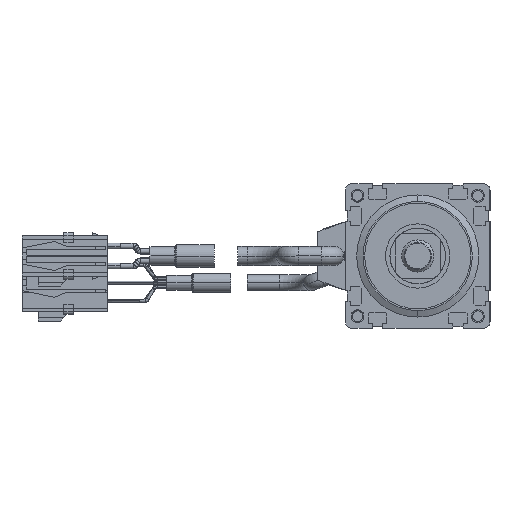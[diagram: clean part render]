
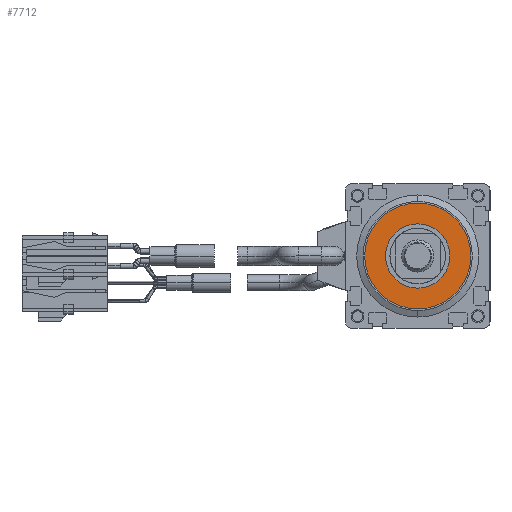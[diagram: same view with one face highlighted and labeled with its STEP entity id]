
A CAD part, left-side view. The second image highlights one B-rep face of the part: STEP entity #7712.
In plain terms, the highlighted planar face has unit normal (-1, 0, 0).
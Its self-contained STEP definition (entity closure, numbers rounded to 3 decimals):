
#2024=CARTESIAN_POINT('',(-276.5,0.,0.));
#2025=DIRECTION('',(1.,0.,0.));
#2026=DIRECTION('',(0.,1.,0.));
#2027=AXIS2_PLACEMENT_3D('',#2024,#2025,#2026);
#2029=CARTESIAN_POINT('',(-276.5,0.,0.));
#2030=DIRECTION('',(1.,0.,0.));
#2031=DIRECTION('',(0.,-1.,0.));
#2032=AXIS2_PLACEMENT_3D('',#2029,#2030,#2031);
#2034=CARTESIAN_POINT('',(-276.5,0.,0.));
#2035=DIRECTION('',(-1.,0.,0.));
#2036=DIRECTION('',(0.,0.,1.));
#2037=AXIS2_PLACEMENT_3D('',#2034,#2035,#2036);
#2039=CARTESIAN_POINT('',(-276.5,0.,0.));
#2040=DIRECTION('',(-1.,0.,0.));
#2041=DIRECTION('',(0.,0.,-1.));
#2042=AXIS2_PLACEMENT_3D('',#2039,#2040,#2041);
#3696=CARTESIAN_POINT('',(-276.5,16.5,0.));
#3697=VERTEX_POINT('',#3696);
#3698=CARTESIAN_POINT('',(-276.5,-16.5,0.));
#3699=VERTEX_POINT('',#3698);
#4675=CARTESIAN_POINT('',(-276.5,0.,10.));
#4676=CARTESIAN_POINT('',(-276.5,0.,-10.));
#4677=VERTEX_POINT('',#4675);
#4678=VERTEX_POINT('',#4676);
#7697=CARTESIAN_POINT('',(-276.5,0.,0.));
#7698=DIRECTION('',(1.,0.,0.));
#7699=DIRECTION('',(0.,1.,0.));
#7700=AXIS2_PLACEMENT_3D('',#7697,#7698,#7699);
#7701=PLANE('',#7700);
#7702=ORIENTED_EDGE('',*,*,#7677,.T.);
#7703=ORIENTED_EDGE('',*,*,#7691,.T.);
#7704=EDGE_LOOP('',(#7702,#7703));
#7705=FACE_OUTER_BOUND('',#7704,.F.);
#7707=ORIENTED_EDGE('',*,*,#7706,.T.);
#7709=ORIENTED_EDGE('',*,*,#7708,.T.);
#7710=EDGE_LOOP('',(#7707,#7709));
#7711=FACE_BOUND('',#7710,.F.);
#7712=ADVANCED_FACE('',(#7705,#7711),#7701,.F.);
#2028=CIRCLE('',#2027,16.5);
#2033=CIRCLE('',#2032,16.5);
#2038=CIRCLE('',#2037,10.);
#2043=CIRCLE('',#2042,10.);
#7677=EDGE_CURVE('',#3697,#3699,#2028,.T.);
#7691=EDGE_CURVE('',#3699,#3697,#2033,.T.);
#7706=EDGE_CURVE('',#4677,#4678,#2038,.T.);
#7708=EDGE_CURVE('',#4678,#4677,#2043,.T.);
